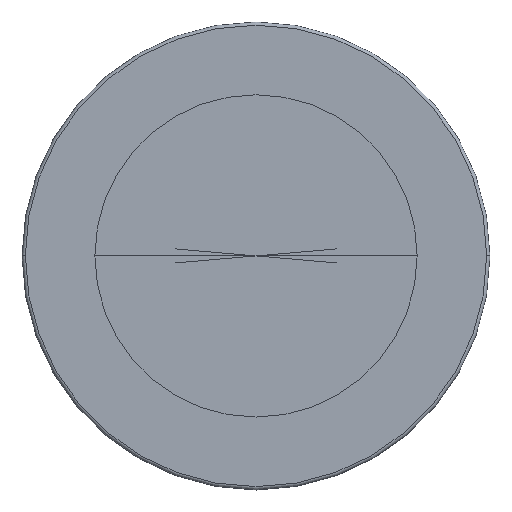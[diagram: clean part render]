
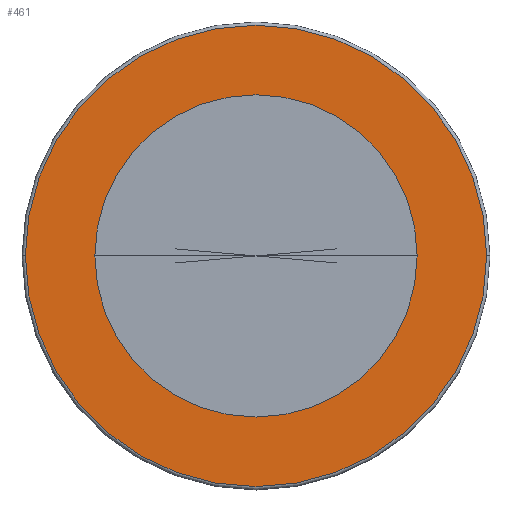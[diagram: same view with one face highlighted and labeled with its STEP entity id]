
A CAD part, top view. The second image highlights one B-rep face of the part: STEP entity #461.
In plain terms, the highlighted planar face has unit normal (0, 0, 1).
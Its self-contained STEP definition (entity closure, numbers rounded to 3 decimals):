
#9=CARTESIAN_POINT('',(0.,0.,2.937));
#10=DIRECTION('',(0.,0.,-1.));
#11=DIRECTION('',(1.,0.,0.));
#12=AXIS2_PLACEMENT_3D('',#9,#10,#11);
#14=CARTESIAN_POINT('',(0.,0.,2.937));
#15=DIRECTION('',(0.,0.,1.));
#16=DIRECTION('',(1.,0.,0.));
#17=AXIS2_PLACEMENT_3D('',#14,#15,#16);
#19=CARTESIAN_POINT('',(0.,0.,2.937));
#20=DIRECTION('',(0.,0.,-1.));
#21=DIRECTION('',(1.,0.,0.));
#22=AXIS2_PLACEMENT_3D('',#19,#20,#21);
#24=CARTESIAN_POINT('',(0.,0.,2.937));
#25=DIRECTION('',(0.,0.,-1.));
#26=DIRECTION('',(-1.,0.,0.));
#27=AXIS2_PLACEMENT_3D('',#24,#25,#26);
#380=CARTESIAN_POINT('',(2.48,0.,2.937));
#382=VERTEX_POINT('',#380);
#383=CARTESIAN_POINT('',(-2.48,0.,2.937));
#384=VERTEX_POINT('',#383);
#406=CARTESIAN_POINT('',(3.55,0.,2.937));
#407=CARTESIAN_POINT('',(-3.55,0.,2.937));
#408=VERTEX_POINT('',#406);
#409=VERTEX_POINT('',#407);
#446=CARTESIAN_POINT('',(0.,0.,2.937));
#447=DIRECTION('',(0.,0.,1.));
#448=DIRECTION('',(-1.,0.,0.));
#449=AXIS2_PLACEMENT_3D('',#446,#447,#448);
#450=PLANE('',#449);
#452=ORIENTED_EDGE('',*,*,#451,.T.);
#454=ORIENTED_EDGE('',*,*,#453,.T.);
#455=EDGE_LOOP('',(#452,#454));
#456=FACE_OUTER_BOUND('',#455,.F.);
#457=ORIENTED_EDGE('',*,*,#440,.F.);
#458=ORIENTED_EDGE('',*,*,#424,.T.);
#459=EDGE_LOOP('',(#457,#458));
#460=FACE_BOUND('',#459,.F.);
#461=ADVANCED_FACE('',(#456,#460),#450,.T.);
#13=CIRCLE('',#12,2.48);
#18=CIRCLE('',#17,2.48);
#23=CIRCLE('',#22,3.55);
#28=CIRCLE('',#27,3.55);
#424=EDGE_CURVE('',#382,#384,#18,.T.);
#440=EDGE_CURVE('',#382,#384,#13,.T.);
#451=EDGE_CURVE('',#408,#409,#23,.T.);
#453=EDGE_CURVE('',#409,#408,#28,.T.);
